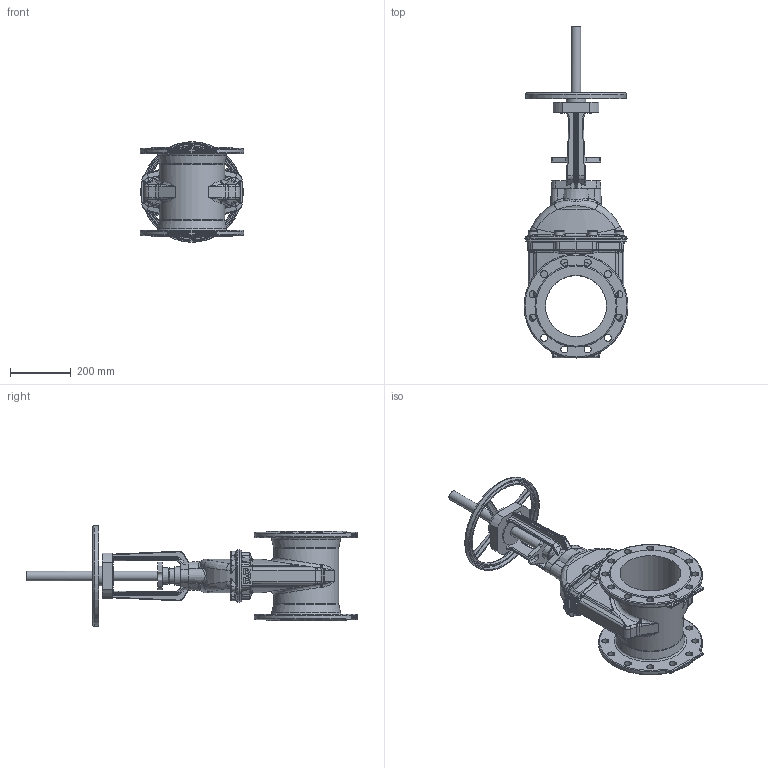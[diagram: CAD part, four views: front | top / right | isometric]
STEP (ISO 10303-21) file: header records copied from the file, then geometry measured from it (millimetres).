
FILE_DESCRIPTION (( 'STEP AP203' ), '1' );
FILE_NAME ('O_21_34_DN200_41XXXXX open_AA0.step', '2020-02-12T09:23:19', ( 'Windows User' ), ( 'AVK' ), 'SwSTEP 2.0', 'SolidWorks 2012', '' );
FILE_SCHEMA (( 'CONFIG_CONTROL_DESIGN' ));
Length unit declared in the file: millimetre
Products named in the file (1): O_21_34_DN200_41XXXXX open_AA0
Bounding box: 340 x 1088.37 x 329.91 mm (x, y, z)
Volume: 14695883.5 mm3; surface area: 1238581.6 mm2
Topology: 1 solids, 1 shells, 819 faces, 2116 edges, 1289 vertices
Faces by surface type: cylinder 223, plane 208, bspline 208, cone 100, torus 64, sphere 16
Full cylindrical faces by diameter (mm): 23 x24, 32 x2, 47.9 x1, 54 x1, 60 x1, 65 x1, 100 x1, 105 x1, 200 x1, 214 x1, 340 x2
Entity records: 34695 total; most frequent: CARTESIAN_POINT 17261, ORIENTED_EDGE 3990, DIRECTION 3114, EDGE_CURVE 1995, VERTEX_POINT 1250, AXIS2_PLACEMENT_3D 1231, EDGE_LOOP 953, FACE_OUTER_BOUND 865
